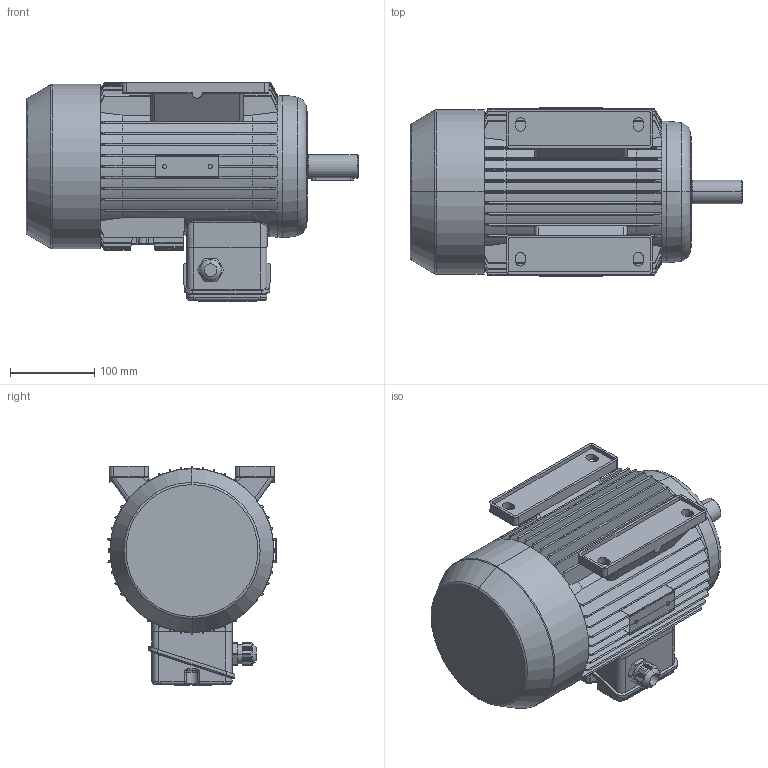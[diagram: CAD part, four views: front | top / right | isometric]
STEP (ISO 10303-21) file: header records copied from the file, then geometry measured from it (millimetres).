
FILE_DESCRIPTION (( 'STEP AP214' ), '1' );
FILE_NAME ('MAP100L2A IM1041.STEP', '2020-12-21T15:50:51', ( '' ), ( '' ), 'SwSTEP 2.0', 'SolidWorks 2018', '' );
FILE_SCHEMA (( 'AUTOMOTIVE_DESIGN' ));
Length unit declared in the file: millimetre
Products named in the file (1): MAP100L2A IM1041
Bounding box: 394 x 200 x 260.5 mm (x, y, z)
Volume: 8800683.9 mm3; surface area: 683405.8 mm2
Topology: 3 solids, 8 shells, 1201 faces, 3230 edges, 2074 vertices
Faces by surface type: plane 591, cylinder 288, cone 160, bspline 89, torus 69, sphere 4
Entity records: 44823 total; most frequent: CARTESIAN_POINT 16561, ORIENTED_EDGE 6448, DIRECTION 5168, EDGE_CURVE 3224, VERTEX_POINT 2074, AXIS2_PLACEMENT_3D 1783, LINE 1602, VECTOR 1602
